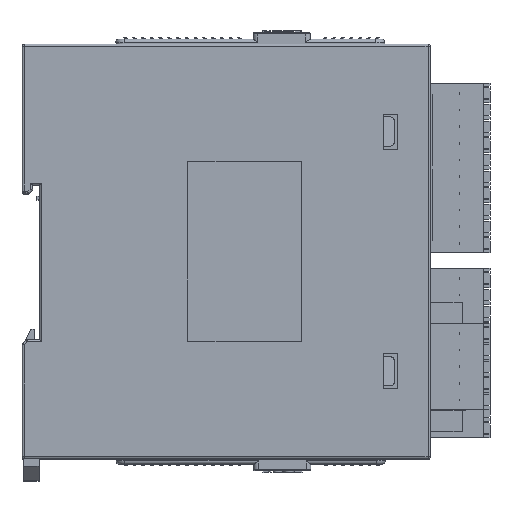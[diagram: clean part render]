
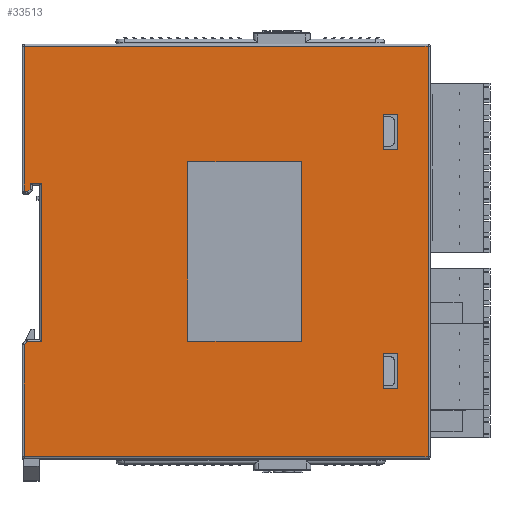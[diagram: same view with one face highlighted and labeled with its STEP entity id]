
A CAD part, top view. The second image highlights one B-rep face of the part: STEP entity #33513.
In plain terms, the highlighted planar face has unit normal (0, 0, 1).
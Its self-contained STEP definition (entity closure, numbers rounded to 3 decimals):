
#28037=FACE_BOUND('',#44187,.T.);
#28038=FACE_BOUND('',#44188,.T.);
#28039=FACE_BOUND('',#44189,.T.);
#28040=FACE_BOUND('',#44190,.T.);
#33513=ADVANCED_FACE('',(#28037,#28038,#28039,#28040),#36932,.T.);
#36932=PLANE('',#101362);
#44187=EDGE_LOOP('',(#54691,#54692,#54693,#54694,#54695,#54696,#54697,#54698,
#54699,#54700,#54701,#54702,#54703));
#44188=EDGE_LOOP('',(#54704,#54705,#54706,#54707));
#44189=EDGE_LOOP('',(#54708,#54709,#54710,#54711));
#44190=EDGE_LOOP('',(#54712,#54713,#54714,#54715));
#54691=ORIENTED_EDGE('',*,*,#78352,.T.);
#54692=ORIENTED_EDGE('',*,*,#78349,.T.);
#54693=ORIENTED_EDGE('',*,*,#78346,.T.);
#54694=ORIENTED_EDGE('',*,*,#78344,.T.);
#54695=ORIENTED_EDGE('',*,*,#78342,.T.);
#54696=ORIENTED_EDGE('',*,*,#78413,.T.);
#54697=ORIENTED_EDGE('',*,*,#77488,.T.);
#54698=ORIENTED_EDGE('',*,*,#78410,.T.);
#54699=ORIENTED_EDGE('',*,*,#78340,.T.);
#54700=ORIENTED_EDGE('',*,*,#78337,.T.);
#54701=ORIENTED_EDGE('',*,*,#78336,.T.);
#54702=ORIENTED_EDGE('',*,*,#78335,.T.);
#54703=ORIENTED_EDGE('',*,*,#78333,.T.);
#54704=ORIENTED_EDGE('',*,*,#78331,.F.);
#54705=ORIENTED_EDGE('',*,*,#78330,.T.);
#54706=ORIENTED_EDGE('',*,*,#78328,.T.);
#54707=ORIENTED_EDGE('',*,*,#78324,.F.);
#54708=ORIENTED_EDGE('',*,*,#77509,.F.);
#54709=ORIENTED_EDGE('',*,*,#77512,.F.);
#54710=ORIENTED_EDGE('',*,*,#77406,.F.);
#54711=ORIENTED_EDGE('',*,*,#77514,.F.);
#54712=ORIENTED_EDGE('',*,*,#77502,.F.);
#54713=ORIENTED_EDGE('',*,*,#77507,.F.);
#54714=ORIENTED_EDGE('',*,*,#77411,.F.);
#54715=ORIENTED_EDGE('',*,*,#77505,.F.);
#69808=VERTEX_POINT('',#134602);
#69809=VERTEX_POINT('',#134604);
#69812=VERTEX_POINT('',#134612);
#69813=VERTEX_POINT('',#134614);
#69859=VERTEX_POINT('',#134764);
#69860=VERTEX_POINT('',#134766);
#69867=VERTEX_POINT('',#134796);
#69868=VERTEX_POINT('',#134797);
#69869=VERTEX_POINT('',#134808);
#69870=VERTEX_POINT('',#134809);
#70343=VERTEX_POINT('',#136414);
#70344=VERTEX_POINT('',#136421);
#70347=VERTEX_POINT('',#136431);
#70357=VERTEX_POINT('',#136462);
#70360=VERTEX_POINT('',#136469);
#70363=VERTEX_POINT('',#136481);
#70364=VERTEX_POINT('',#136482);
#70365=VERTEX_POINT('',#136487);
#70366=VERTEX_POINT('',#136491);
#70367=VERTEX_POINT('',#136497);
#70368=VERTEX_POINT('',#136499);
#70369=VERTEX_POINT('',#136509);
#70372=VERTEX_POINT('',#136516);
#70373=VERTEX_POINT('',#136524);
#70375=VERTEX_POINT('',#136530);
#77406=EDGE_CURVE('',#69808,#69809,#86471,.T.);
#77411=EDGE_CURVE('',#69812,#69813,#86476,.T.);
#77488=EDGE_CURVE('',#69859,#69860,#86547,.T.);
#77502=EDGE_CURVE('',#69867,#69868,#86553,.T.);
#77505=EDGE_CURVE('',#69868,#69812,#86556,.T.);
#77507=EDGE_CURVE('',#69813,#69867,#86558,.T.);
#77509=EDGE_CURVE('',#69869,#69870,#86560,.T.);
#77512=EDGE_CURVE('',#69809,#69869,#86563,.T.);
#77514=EDGE_CURVE('',#69870,#69808,#86565,.T.);
#78324=EDGE_CURVE('',#70363,#70364,#87275,.T.);
#78328=EDGE_CURVE('',#70365,#70364,#87279,.T.);
#78330=EDGE_CURVE('',#70366,#70365,#87281,.T.);
#78331=EDGE_CURVE('',#70366,#70363,#87282,.T.);
#78333=EDGE_CURVE('',#70368,#70367,#87283,.T.);
#78335=EDGE_CURVE('',#70343,#70368,#87284,.T.);
#78336=EDGE_CURVE('',#70344,#70343,#87285,.T.);
#78337=EDGE_CURVE('',#70347,#70344,#87286,.T.);
#78340=EDGE_CURVE('',#70369,#70347,#87288,.T.);
#78342=EDGE_CURVE('',#70360,#70372,#87289,.T.);
#78344=EDGE_CURVE('',#70357,#70360,#87291,.T.);
#78346=EDGE_CURVE('',#70373,#70357,#87293,.T.);
#78349=EDGE_CURVE('',#70375,#70373,#87295,.T.);
#78352=EDGE_CURVE('',#70367,#70375,#87297,.T.);
#78410=EDGE_CURVE('',#69860,#70369,#87347,.T.);
#78413=EDGE_CURVE('',#70372,#69859,#87350,.T.);
#86471=LINE('',#134603,#93950);
#86476=LINE('',#134613,#93955);
#86547=LINE('',#134767,#94026);
#86553=LINE('',#134795,#94032);
#86556=LINE('',#134801,#94035);
#86558=LINE('',#134804,#94037);
#86560=LINE('',#134807,#94039);
#86563=LINE('',#134813,#94042);
#86565=LINE('',#134816,#94044);
#87275=LINE('',#136480,#94754);
#87279=LINE('',#136488,#94758);
#87281=LINE('',#136492,#94760);
#87282=LINE('',#136494,#94761);
#87283=LINE('',#136498,#94762);
#87284=LINE('',#136502,#94763);
#87285=LINE('',#136504,#94764);
#87286=LINE('',#136506,#94765);
#87288=LINE('',#136512,#94767);
#87289=LINE('',#136517,#94768);
#87291=LINE('',#136520,#94770);
#87293=LINE('',#136523,#94772);
#87295=LINE('',#136529,#94774);
#87297=LINE('',#136535,#94776);
#87347=LINE('',#136649,#94826);
#87350=LINE('',#136653,#94829);
#93950=VECTOR('',#110109,1.);
#93955=VECTOR('',#110116,1.);
#94026=VECTOR('',#110257,1.);
#94032=VECTOR('',#110295,1.);
#94035=VECTOR('',#110300,1.);
#94037=VECTOR('',#110304,1.);
#94039=VECTOR('',#110308,1.);
#94042=VECTOR('',#110313,1.);
#94044=VECTOR('',#110317,1.);
#94754=VECTOR('',#111951,1.);
#94758=VECTOR('',#111957,1.);
#94760=VECTOR('',#111961,1.);
#94761=VECTOR('',#111964,1.);
#94762=VECTOR('',#111969,1.);
#94763=VECTOR('',#111974,1.);
#94764=VECTOR('',#111977,1.);
#94765=VECTOR('',#111980,1.);
#94767=VECTOR('',#111986,1.);
#94768=VECTOR('',#111991,1.);
#94770=VECTOR('',#111995,1.);
#94772=VECTOR('',#111999,1.);
#94774=VECTOR('',#112005,1.);
#94776=VECTOR('',#112011,1.);
#94826=VECTOR('',#112133,1.);
#94829=VECTOR('',#112138,1.);
#101362=AXIS2_PLACEMENT_3D('',#136655,#112141,#112142);
#110109=DIRECTION('',(0.,-1.,0.));
#110116=DIRECTION('',(0.,-1.,0.));
#110257=DIRECTION('',(0.,1.,0.));
#110295=DIRECTION('',(0.,1.,0.));
#110300=DIRECTION('',(-1.,0.,0.));
#110304=DIRECTION('',(1.,0.,0.));
#110308=DIRECTION('',(0.,1.,0.));
#110313=DIRECTION('',(1.,0.,0.));
#110317=DIRECTION('',(-1.,0.,0.));
#111951=DIRECTION('',(0.,-1.,0.));
#111957=DIRECTION('',(-1.,0.,0.));
#111961=DIRECTION('',(0.,-1.,0.));
#111964=DIRECTION('',(-1.,0.,0.));
#111969=DIRECTION('',(0.,1.,0.));
#111974=DIRECTION('',(0.707,0.707,0.));
#111977=DIRECTION('',(1.,0.,0.));
#111980=DIRECTION('',(0.707,-0.707,0.));
#111986=DIRECTION('',(0.,-1.,0.));
#111991=DIRECTION('',(0.,-1.,0.));
#111995=DIRECTION('',(-0.707,-0.707,0.));
#111999=DIRECTION('',(-1.,0.,0.));
#112005=DIRECTION('',(0.,-1.,0.));
#112011=DIRECTION('',(1.,0.,0.));
#112133=DIRECTION('',(-1.,0.,0.));
#112138=DIRECTION('',(1.,0.,0.));
#112141=DIRECTION('',(0.,0.,1.));
#112142=DIRECTION('',(-1.,0.,0.));
#134602=CARTESIAN_POINT('',(75.9,-23.4,158.1));
#134603=CARTESIAN_POINT('',(75.9,-47.4,158.1));
#134604=CARTESIAN_POINT('',(75.9,-31.4,158.1));
#134612=CARTESIAN_POINT('',(75.9,31.4,158.1));
#134613=CARTESIAN_POINT('',(75.9,-47.4,158.1));
#134614=CARTESIAN_POINT('',(75.9,23.4,158.1));
#134764=CARTESIAN_POINT('',(85.998,-46.9,158.1));
#134766=CARTESIAN_POINT('',(85.998,46.9,158.1));
#134767=CARTESIAN_POINT('',(85.998,47.4,158.1));
#134795=CARTESIAN_POINT('',(79.1,-47.4,158.1));
#134796=CARTESIAN_POINT('',(79.1,23.4,158.1));
#134797=CARTESIAN_POINT('',(79.1,31.4,158.1));
#134801=CARTESIAN_POINT('',(93.1,31.4,158.1));
#134804=CARTESIAN_POINT('',(93.1,23.4,158.1));
#134807=CARTESIAN_POINT('',(79.1,-47.4,158.1));
#134808=CARTESIAN_POINT('',(79.1,-31.4,158.1));
#134809=CARTESIAN_POINT('',(79.1,-23.4,158.1));
#134813=CARTESIAN_POINT('',(93.1,-31.4,158.1));
#134816=CARTESIAN_POINT('',(93.1,-23.4,158.1));
#136414=CARTESIAN_POINT('',(-5.507,13.6,158.1));
#136421=CARTESIAN_POINT('',(-6.093,13.6,158.1));
#136431=CARTESIAN_POINT('',(-6.3,13.807,158.1));
#136462=CARTESIAN_POINT('',(-5.593,-20.6,158.1));
#136469=CARTESIAN_POINT('',(-6.3,-21.307,158.1));
#136480=CARTESIAN_POINT('',(31.1,0.,158.1));
#136481=CARTESIAN_POINT('',(31.1,20.5,158.1));
#136482=CARTESIAN_POINT('',(31.1,-20.5,158.1));
#136487=CARTESIAN_POINT('',(57.1,-20.5,158.1));
#136488=CARTESIAN_POINT('',(0.1,-20.5,158.1));
#136491=CARTESIAN_POINT('',(57.1,20.5,158.1));
#136492=CARTESIAN_POINT('',(57.1,0.,158.1));
#136494=CARTESIAN_POINT('',(0.1,20.5,158.1));
#136497=CARTESIAN_POINT('',(-4.9,15.6,158.1));
#136498=CARTESIAN_POINT('',(-4.9,0.,158.1));
#136499=CARTESIAN_POINT('',(-4.9,14.207,158.1));
#136502=CARTESIAN_POINT('',(-4.754,14.354,158.1));
#136504=CARTESIAN_POINT('',(0.1,13.6,158.1));
#136506=CARTESIAN_POINT('',(-5.946,13.454,158.1));
#136509=CARTESIAN_POINT('',(-6.3,46.9,158.1));
#136512=CARTESIAN_POINT('',(-6.3,0.,158.1));
#136516=CARTESIAN_POINT('',(-6.3,-46.9,158.1));
#136517=CARTESIAN_POINT('',(-6.3,0.,158.1));
#136520=CARTESIAN_POINT('',(7.554,-7.454,158.1));
#136523=CARTESIAN_POINT('',(0.1,-20.6,158.1));
#136524=CARTESIAN_POINT('',(-2.3,-20.6,158.1));
#136529=CARTESIAN_POINT('',(-2.3,0.,158.1));
#136530=CARTESIAN_POINT('',(-2.3,15.6,158.1));
#136535=CARTESIAN_POINT('',(0.1,15.6,158.1));
#136649=CARTESIAN_POINT('',(0.1,46.9,158.1));
#136653=CARTESIAN_POINT('',(0.1,-46.9,158.1));
#136655=CARTESIAN_POINT('',(0.1,0.,158.1));
